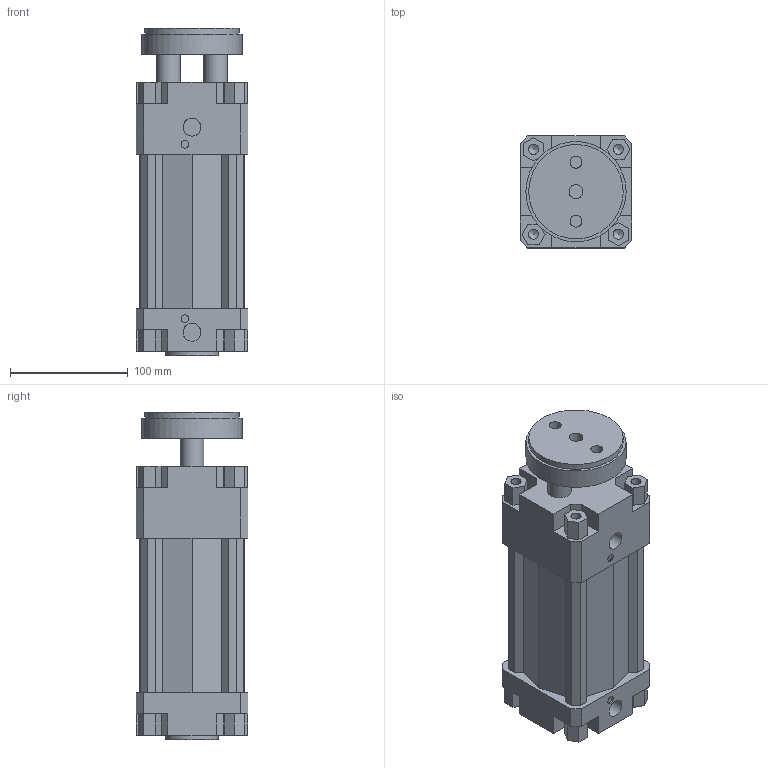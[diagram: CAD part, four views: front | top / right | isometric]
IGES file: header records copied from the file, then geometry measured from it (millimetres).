
Global section: file name: 134#_080_0075_01; native system: Autodesk Inventor 2014; preprocessor: unknown; author: A. Manieri; date: 20161006.165153; units: millimetre
Bounding box: 95 x 95 x 278 mm (x, y, z)
Volume: 1500494.6 mm3; surface area: 231420.3 mm2
Topology: 2 solids, 2 shells, 180 faces, 491 edges, 335 vertices
Faces by surface type: bspline 180
